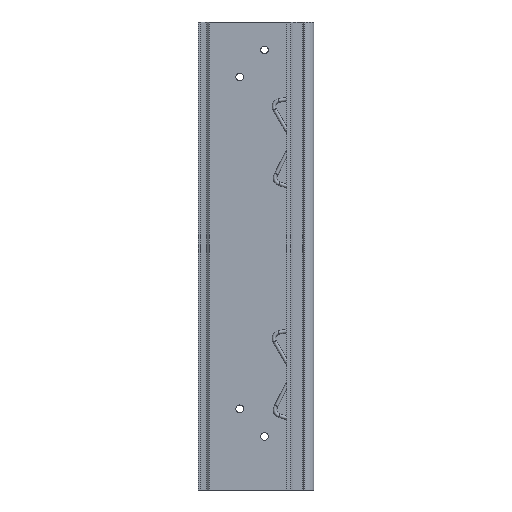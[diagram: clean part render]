
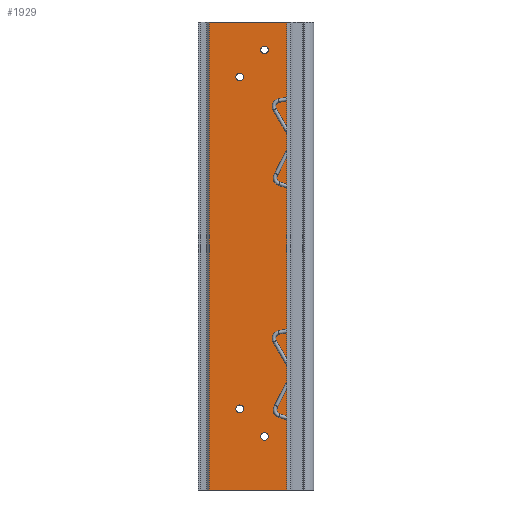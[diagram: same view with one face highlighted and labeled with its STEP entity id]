
A CAD part, left-side view. The second image highlights one B-rep face of the part: STEP entity #1929.
In plain terms, the highlighted planar face has unit normal (-1, 0, 0).
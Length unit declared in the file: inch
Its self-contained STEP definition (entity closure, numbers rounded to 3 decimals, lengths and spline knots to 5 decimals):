
#38=DIRECTION('',(0.,1.,0.));
#39=VECTOR('',#38,1.3025);
#40=CARTESIAN_POINT('',(-0.08,0.455,0.));
#41=LINE('',#40,#39);
#266=DIRECTION('',(0.,0.,1.));
#267=VECTOR('',#266,7.87);
#268=CARTESIAN_POINT('',(-0.08,1.7575,0.));
#269=LINE('',#268,#267);
#270=DIRECTION('',(0.,0.,1.));
#271=VECTOR('',#270,7.87);
#272=CARTESIAN_POINT('',(-0.08,0.455,0.));
#273=LINE('',#272,#271);
#274=CARTESIAN_POINT('',(-0.08,0.828,0.9));
#275=DIRECTION('',(-1.,0.,0.));
#276=DIRECTION('',(0.,1.,0.));
#277=AXIS2_PLACEMENT_3D('',#274,#275,#276);
#279=CARTESIAN_POINT('',(-0.08,0.828,0.9));
#280=DIRECTION('',(-1.,0.,0.));
#281=DIRECTION('',(0.,-1.,0.));
#282=AXIS2_PLACEMENT_3D('',#279,#280,#281);
#284=CARTESIAN_POINT('',(-0.08,0.828,7.4));
#285=DIRECTION('',(-1.,0.,0.));
#286=DIRECTION('',(0.,1.,0.));
#287=AXIS2_PLACEMENT_3D('',#284,#285,#286);
#289=CARTESIAN_POINT('',(-0.08,0.828,7.4));
#290=DIRECTION('',(-1.,0.,0.));
#291=DIRECTION('',(0.,-1.,0.));
#292=AXIS2_PLACEMENT_3D('',#289,#290,#291);
#294=CARTESIAN_POINT('',(-0.08,1.244,6.945));
#295=DIRECTION('',(1.,0.,0.));
#296=DIRECTION('',(0.,-1.,0.));
#297=AXIS2_PLACEMENT_3D('',#294,#295,#296);
#299=CARTESIAN_POINT('',(-0.08,1.244,6.945));
#300=DIRECTION('',(1.,0.,0.));
#301=DIRECTION('',(0.,1.,0.));
#302=AXIS2_PLACEMENT_3D('',#299,#300,#301);
#304=CARTESIAN_POINT('',(-0.08,1.244,1.365));
#305=DIRECTION('',(1.,0.,0.));
#306=DIRECTION('',(0.,-1.,0.));
#307=AXIS2_PLACEMENT_3D('',#304,#305,#306);
#309=CARTESIAN_POINT('',(-0.08,1.244,1.365));
#310=DIRECTION('',(1.,0.,0.));
#311=DIRECTION('',(0.,1.,0.));
#312=AXIS2_PLACEMENT_3D('',#309,#310,#311);
#436=DIRECTION('',(0.,1.,0.));
#437=VECTOR('',#436,1.3025);
#438=CARTESIAN_POINT('',(-0.08,0.455,7.87));
#439=LINE('',#438,#437);
#1409=CARTESIAN_POINT('',(-0.08,0.455,0.));
#1410=VERTEX_POINT('',#1409);
#1421=CARTESIAN_POINT('',(-0.08,0.455,7.87));
#1422=VERTEX_POINT('',#1421);
#1427=CARTESIAN_POINT('',(-0.08,1.7575,0.));
#1429=VERTEX_POINT('',#1427);
#1435=CARTESIAN_POINT('',(-0.08,1.7575,7.87));
#1437=VERTEX_POINT('',#1435);
#1491=CARTESIAN_POINT('',(-0.08,0.89296,7.4));
#1492=CARTESIAN_POINT('',(-0.08,0.76304,7.4));
#1493=VERTEX_POINT('',#1491);
#1494=VERTEX_POINT('',#1492);
#1511=CARTESIAN_POINT('',(-0.08,0.89296,0.9));
#1512=CARTESIAN_POINT('',(-0.08,0.76304,0.9));
#1513=VERTEX_POINT('',#1511);
#1514=VERTEX_POINT('',#1512);
#1639=CARTESIAN_POINT('',(-0.08,1.17904,6.945));
#1640=CARTESIAN_POINT('',(-0.08,1.30896,6.945));
#1641=VERTEX_POINT('',#1639);
#1642=VERTEX_POINT('',#1640);
#1655=CARTESIAN_POINT('',(-0.08,1.17904,1.365));
#1656=CARTESIAN_POINT('',(-0.08,1.30896,1.365));
#1657=VERTEX_POINT('',#1655);
#1658=VERTEX_POINT('',#1656);
#1892=CARTESIAN_POINT('',(-0.08,0.455,7.87));
#1893=DIRECTION('',(1.,0.,0.));
#1894=DIRECTION('',(0.,1.,0.));
#1895=AXIS2_PLACEMENT_3D('',#1892,#1893,#1894);
#1896=PLANE('',#1895);
#1898=ORIENTED_EDGE('',*,*,#1897,.T.);
#1900=ORIENTED_EDGE('',*,*,#1899,.F.);
#1901=ORIENTED_EDGE('',*,*,#1884,.F.);
#1902=ORIENTED_EDGE('',*,*,#1684,.T.);
#1903=EDGE_LOOP('',(#1898,#1900,#1901,#1902));
#1904=FACE_OUTER_BOUND('',#1903,.F.);
#1906=ORIENTED_EDGE('',*,*,#1905,.T.);
#1908=ORIENTED_EDGE('',*,*,#1907,.T.);
#1909=EDGE_LOOP('',(#1906,#1908));
#1910=FACE_BOUND('',#1909,.F.);
#1912=ORIENTED_EDGE('',*,*,#1911,.T.);
#1914=ORIENTED_EDGE('',*,*,#1913,.T.);
#1915=EDGE_LOOP('',(#1912,#1914));
#1916=FACE_BOUND('',#1915,.F.);
#1918=ORIENTED_EDGE('',*,*,#1917,.F.);
#1920=ORIENTED_EDGE('',*,*,#1919,.F.);
#1921=EDGE_LOOP('',(#1918,#1920));
#1922=FACE_BOUND('',#1921,.F.);
#1924=ORIENTED_EDGE('',*,*,#1923,.F.);
#1926=ORIENTED_EDGE('',*,*,#1925,.F.);
#1927=EDGE_LOOP('',(#1924,#1926));
#1928=FACE_BOUND('',#1927,.F.);
#1929=ADVANCED_FACE('',(#1904,#1910,#1916,#1922,#1928),#1896,.F.);
#278=CIRCLE('',#277,0.06496);
#283=CIRCLE('',#282,0.06496);
#288=CIRCLE('',#287,0.06496);
#293=CIRCLE('',#292,0.06496);
#298=CIRCLE('',#297,0.06496);
#303=CIRCLE('',#302,0.06496);
#308=CIRCLE('',#307,0.06496);
#313=CIRCLE('',#312,0.06496);
#1684=EDGE_CURVE('',#1410,#1429,#41,.T.);
#1884=EDGE_CURVE('',#1410,#1422,#273,.T.);
#1897=EDGE_CURVE('',#1429,#1437,#269,.T.);
#1899=EDGE_CURVE('',#1422,#1437,#439,.T.);
#1905=EDGE_CURVE('',#1513,#1514,#278,.T.);
#1907=EDGE_CURVE('',#1514,#1513,#283,.T.);
#1911=EDGE_CURVE('',#1493,#1494,#288,.T.);
#1913=EDGE_CURVE('',#1494,#1493,#293,.T.);
#1917=EDGE_CURVE('',#1641,#1642,#298,.T.);
#1919=EDGE_CURVE('',#1642,#1641,#303,.T.);
#1923=EDGE_CURVE('',#1657,#1658,#308,.T.);
#1925=EDGE_CURVE('',#1658,#1657,#313,.T.);
